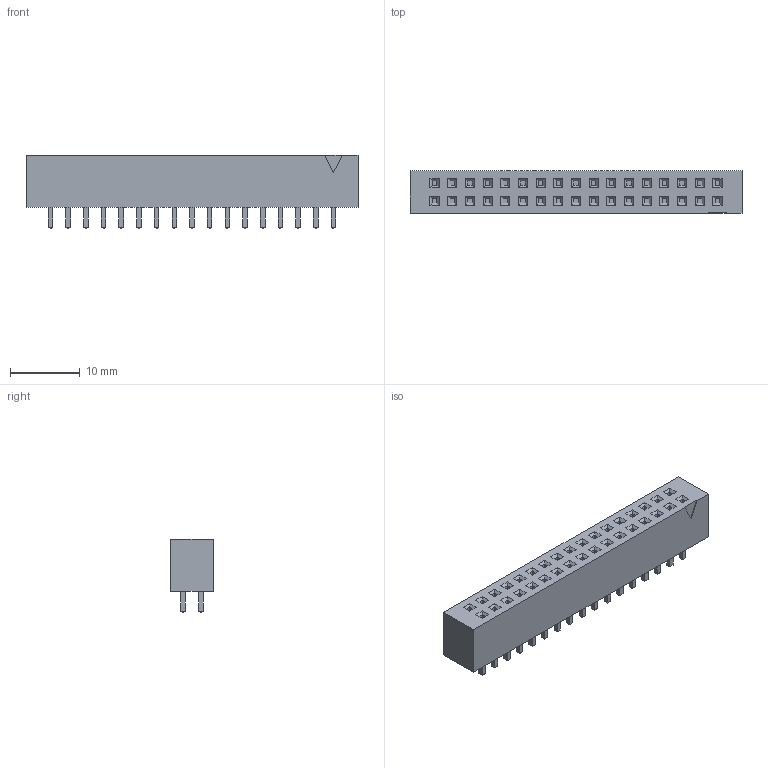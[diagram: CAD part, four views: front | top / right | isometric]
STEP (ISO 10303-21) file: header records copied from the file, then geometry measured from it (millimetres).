
FILE_DESCRIPTION(('FreeCAD Model'),'2;1');
FILE_NAME('/var/www/3D/0T/271693.1.1.stp','2021-04-23T10:19:14',( 'Author'),(''),'Open CASCADE STEP processor 6.9','FreeCAD','Unknown' );
FILE_SCHEMA(('AUTOMOTIVE_DESIGN { 1 0 10303 214 1 1 1 1 }'));
Length unit declared in the file: millimetre
Products named in the file (3): ASSEMBLY; Body; LeadsArray
Assembly tree (2 placements, depth 2):
  ASSEMBLY
    Body
    LeadsArray
Bounding box: 47.7 x 6.1 x 10.6 mm (x, y, z)
Volume: 2152.3 mm3; surface area: 2341.4 mm2
Topology: 35 solids, 35 shells, 655 faces, 1381 edges, 830 vertices
Faces by surface type: plane 655
Entity records: 35029 total; most frequent: CARTESIAN_POINT 5631, DIRECTION 5459, LINE 4143, VECTOR 4143, ORIENTED_EDGE 2762, PCURVE 2762, DEFINITIONAL_REPRESENTATION 2762, EDGE_CURVE 1381
